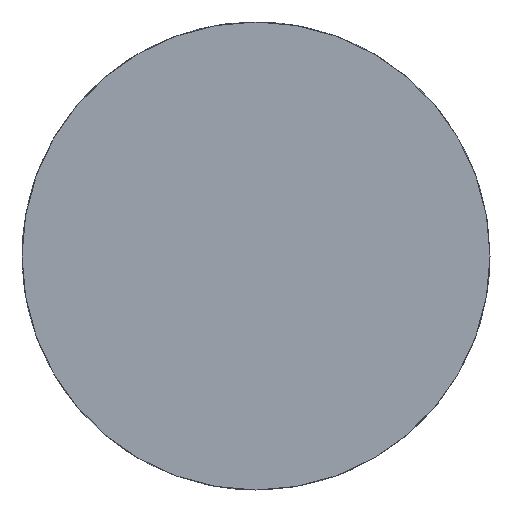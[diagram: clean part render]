
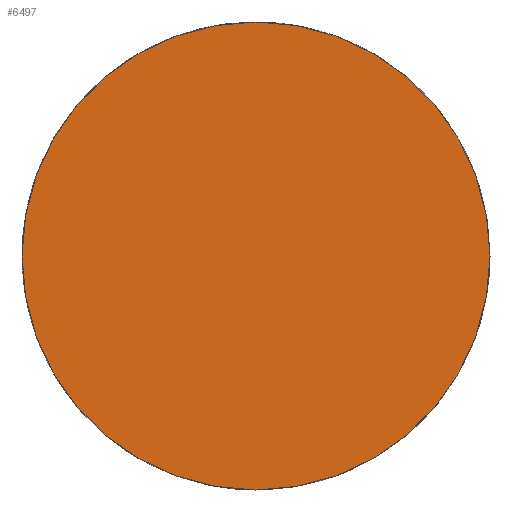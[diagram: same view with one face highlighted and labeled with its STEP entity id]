
A CAD part, front view. The second image highlights one B-rep face of the part: STEP entity #6497.
In plain terms, the highlighted planar face has unit normal (0, -1, 0).
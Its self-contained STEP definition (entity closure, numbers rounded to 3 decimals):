
#24 = VERTEX_POINT('',#25);
#25 = CARTESIAN_POINT('',(21.3,51.1,27.5));
#32 = CYLINDRICAL_SURFACE('',#33,3.3);
#33 = AXIS2_PLACEMENT_3D('',#34,#35,#36);
#34 = CARTESIAN_POINT('',(18.,70.,27.5));
#35 = DIRECTION('',(0.,-1.,0.));
#36 = DIRECTION('',(1.,0.,0.));
#51 = EDGE_CURVE('',#24,#24,#52,.T.);
#52 = SURFACE_CURVE('',#53,(#58,#65),.PCURVE_S1.);
#53 = CIRCLE('',#54,3.3);
#54 = AXIS2_PLACEMENT_3D('',#55,#56,#57);
#55 = CARTESIAN_POINT('',(18.,51.1,27.5));
#56 = DIRECTION('',(0.,-1.,0.));
#57 = DIRECTION('',(1.,0.,0.));
#58 = PCURVE('',#32,#59);
#59 = DEFINITIONAL_REPRESENTATION('',(#60),#64);
#60 = LINE('',#61,#62);
#61 = CARTESIAN_POINT('',(0.,18.9));
#62 = VECTOR('',#63,1.);
#63 = DIRECTION('',(1.,0.));
#64 = ( GEOMETRIC_REPRESENTATION_CONTEXT(2) 
PARAMETRIC_REPRESENTATION_CONTEXT() REPRESENTATION_CONTEXT('2D SPACE',''
  ) );
#65 = PCURVE('',#66,#71);
#66 = PLANE('',#67);
#67 = AXIS2_PLACEMENT_3D('',#68,#69,#70);
#68 = CARTESIAN_POINT('',(18.,51.1,27.5));
#69 = DIRECTION('',(0.,-1.,0.));
#70 = DIRECTION('',(1.,0.,0.));
#71 = DEFINITIONAL_REPRESENTATION('',(#72),#76);
#72 = CIRCLE('',#73,3.3);
#73 = AXIS2_PLACEMENT_2D('',#74,#75);
#74 = CARTESIAN_POINT('',(0.,0.));
#75 = DIRECTION('',(1.,0.));
#76 = ( GEOMETRIC_REPRESENTATION_CONTEXT(2) 
PARAMETRIC_REPRESENTATION_CONTEXT() REPRESENTATION_CONTEXT('2D SPACE',''
  ) );
#6497 = ADVANCED_FACE('',(#6498),#66,.T.);
#6498 = FACE_BOUND('',#6499,.T.);
#6499 = EDGE_LOOP('',(#6500));
#6500 = ORIENTED_EDGE('',*,*,#51,.T.);
